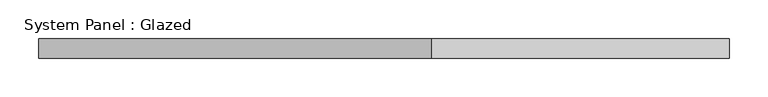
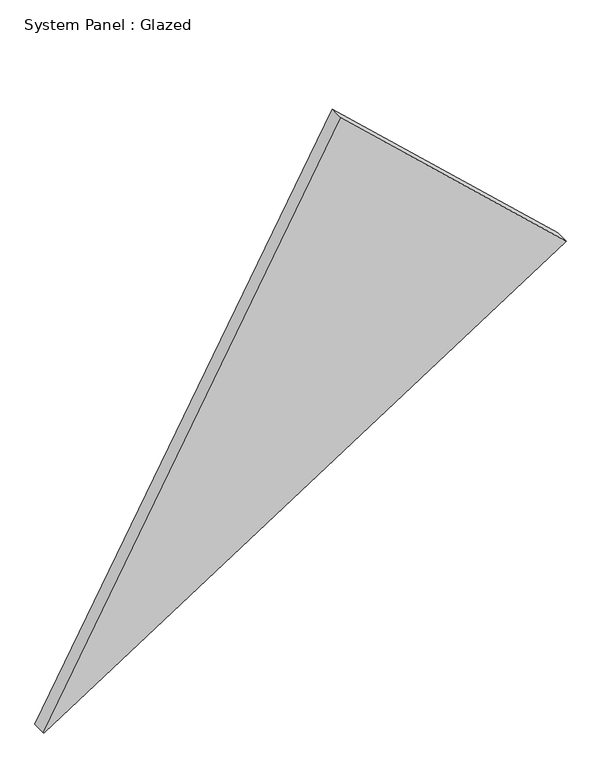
"""IFC4 building model written with IfcOpenShell, lengths in millimetres: plate geometry, System Panel : Glazed."""

from ifc_helpers import new_model, si_unit, frame, origin, place, context, project, spatial, polyline, outline, extrude, source, transform, mapped, element, save


def system_panel_glazed_62bcfb4b(model_context):
    return source(origin(), model_context, "Body", "SweptSolid", [
        extrude(outline(polyline([(0.8553395, -447.4643733), (0.0, -446.5429416), (577.4261047, 447.4643733), (935.2908079, 61.9473863), (0.8553395, -447.4643733)])), frame((0.0, -44.45, 0.0), z_axis=(0.0, 1.0, 0.0), x_axis=(0.0, 0.0, 1.0)), (0.0, 0.0, 1.0), 25.4),
    ])


if __name__ == "__main__":
    model = new_model("IFC4")
    model_context = context("Model", 3, world=origin())
    ifc_project = project(units=[si_unit("LENGTHUNIT", "METRE", prefix="MILLI")], contexts=[model_context])
    site = spatial("IfcSite", under=ifc_project)
    building = spatial("IfcBuilding", under=site)
    placement = place(None, origin())
    system_panel_glazed_shape = system_panel_glazed_62bcfb4b(model_context)
    element("IfcPlate", 1, ObjectType="System Panel : Glazed", at=placement, inside=building, context=model_context, shape_type="MappedRepresentation", body=[
        mapped(system_panel_glazed_shape, transform((0.0, 0.0, 0.0), x_axis=(1.0, 0.0, 0.0), y_axis=(0.0, 1.0, 0.0), z_axis=(0.0, 0.0, 1.0))),
    ])
    save(model, "model.ifc")
